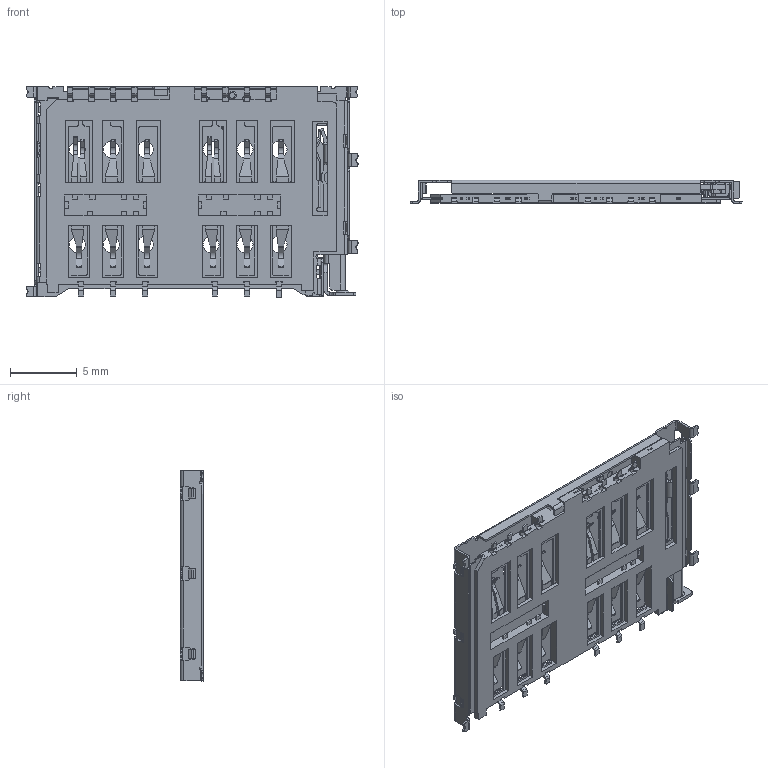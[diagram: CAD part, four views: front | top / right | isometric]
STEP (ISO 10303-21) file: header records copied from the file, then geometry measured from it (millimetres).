
FILE_DESCRIPTION((''),'2;1');
FILE_NAME('115S-BS00_C_3_ASM','2026-04-22T',('fros.liao'),(''),'CREO PARAMETRIC BY PTC INC, 2018360','CREO PARAMETRIC BY PTC INC, 2018360','');
FILE_SCHEMA(('CONFIG_CONTROL_DESIGN'));
Products named in the file (23): INSULATOR_1; 51PS106C0860-ASM_264_1_1; 51PS106C0860-ASM_264_2_1; 51PS106C0860-ASM_264_3_1; 51PS106C0860-ASM_264_4_1; 51PS106C0860-ASM_264_5_1; 51PS106C0860-ASM_264_6_1; 51PS106C0860-ASM_264_7_1; 51PS106C0860-ASM_264_8_1; 51PS106C0860-ASM_264_9_1; 51PS106C0860-ASM_264_10_1; 51PS106C0860-ASM_264_11_1; 51PS106C0860-ASM_264_12_1; 51PS106C0860-ASM_264_13_1; 51PS106C0860-ASM_264_14_1; 51PS106C0860-ASM_264_15_1; 51PS106C0860-ASM_264_16_1; 51PS106C0860-ASM_264_17_1; TERMINAL_ASM_2_ASM; CAM_1; PUSHBAR_1; SHELL_1; 115S-BS00_C_3_ASM
Assembly tree (22 placements, depth 3):
  115S-BS00_C_3_ASM
    INSULATOR_1
    TERMINAL_ASM_2_ASM
      51PS106C0860-ASM_264_1_1
      51PS106C0860-ASM_264_2_1
      51PS106C0860-ASM_264_3_1
      51PS106C0860-ASM_264_4_1
      51PS106C0860-ASM_264_5_1
      51PS106C0860-ASM_264_6_1
      51PS106C0860-ASM_264_7_1
      51PS106C0860-ASM_264_8_1
      51PS106C0860-ASM_264_9_1
      51PS106C0860-ASM_264_10_1
      51PS106C0860-ASM_264_11_1
      51PS106C0860-ASM_264_12_1
      51PS106C0860-ASM_264_13_1
      51PS106C0860-ASM_264_14_1
      51PS106C0860-ASM_264_15_1
      51PS106C0860-ASM_264_16_1
      51PS106C0860-ASM_264_17_1
    CAM_1
    PUSHBAR_1
    SHELL_1
Bounding box: 24.81 x 1.75 x 15.75 mm (x, y, z)
Volume: 197 mm3; surface area: 2085.8 mm2
Topology: 21 solids, 21 shells, 2163 faces, 6496 edges, 4302 vertices
Faces by surface type: plane 1440, cylinder 679, cone 28, torus 16
Entity records: 74144 total; most frequent: CARTESIAN_POINT 13808, ORIENTED_EDGE 12992, DIRECTION 12208, EDGE_CURVE 6496, VECTOR 4872, LINE 4872, VERTEX_POINT 4302, AXIS2_PLACEMENT_3D 3668
